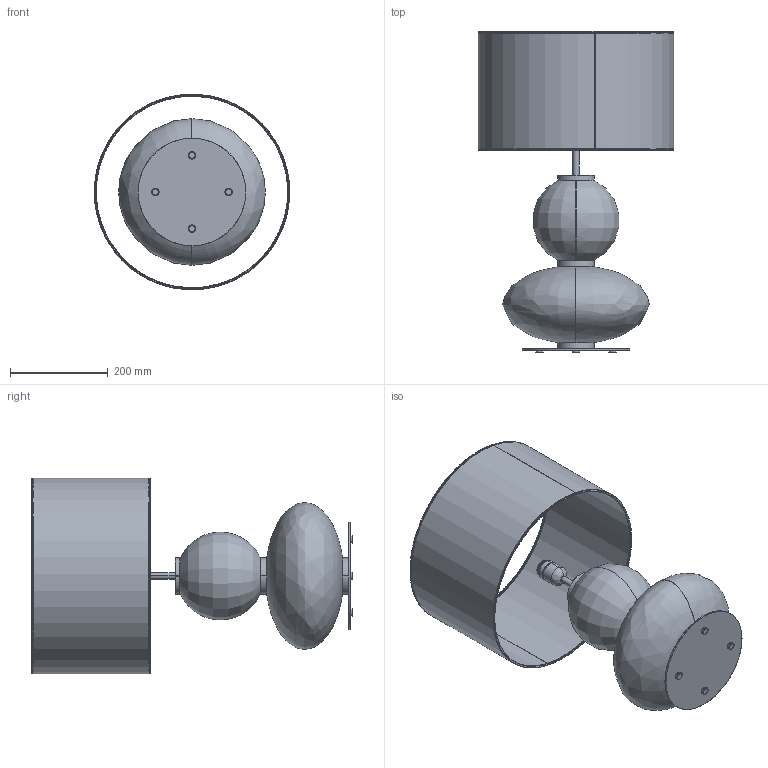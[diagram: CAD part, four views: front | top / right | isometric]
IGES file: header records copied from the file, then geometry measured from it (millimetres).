
Start section: SolidWorks IGES file using analytic representation for surfaces
Global section: file name: C:\Users\Agustin\Desktop\ENERO 2025\2D-3D\MAPI_NAC143\MAPI_NAC143.IGS; native system: SolidWorks 2018; preprocessor: SolidWorks 2018; author: Agustin; date: 250314.100703; units: millimetre
Bounding box: 400 x 657.12 x 399.91 mm (x, y, z)
Surface area: 1055403.3 mm2 (no closed solid volume)
Topology: 0 solids, 0 shells, 138 faces, 2789 edges, 2789 vertices
Faces by surface type: revolution 76, bspline 62
